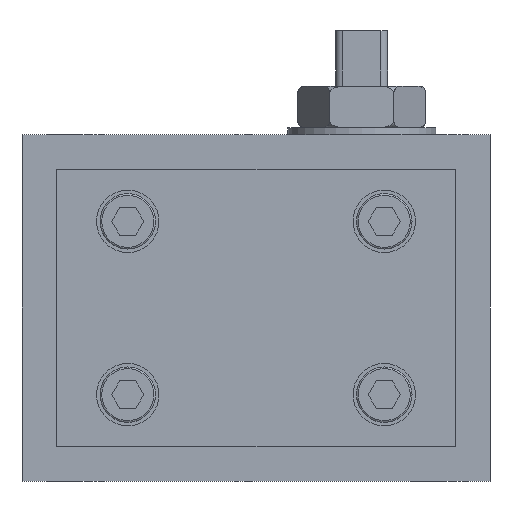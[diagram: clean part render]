
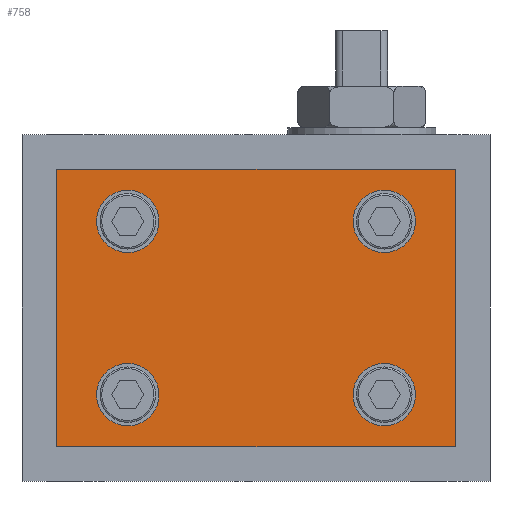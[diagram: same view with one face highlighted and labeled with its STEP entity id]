
A CAD part, left-side view. The second image highlights one B-rep face of the part: STEP entity #758.
In plain terms, the highlighted planar face has unit normal (-1, 0, 0).
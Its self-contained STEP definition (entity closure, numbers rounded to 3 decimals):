
#238=PLANE('',#4825);
#492=FACE_BOUND('',#1357,.T.);
#493=FACE_BOUND('',#1358,.T.);
#494=FACE_BOUND('',#1359,.T.);
#495=FACE_BOUND('',#1360,.T.);
#496=FACE_BOUND('',#1361,.T.);
#758=ADVANCED_FACE('',(#492,#493,#494,#495,#496),#238,.F.);
#1357=EDGE_LOOP('',(#2386));
#1358=EDGE_LOOP('',(#2387));
#1359=EDGE_LOOP('',(#2388));
#1360=EDGE_LOOP('',(#2389));
#1361=EDGE_LOOP('',(#2390,#2391,#2392,#2393));
#1748=CIRCLE('',#4821,9.);
#1749=CIRCLE('',#4822,9.);
#1750=CIRCLE('',#4823,9.);
#1751=CIRCLE('',#4824,9.);
#2386=ORIENTED_EDGE('',*,*,#3677,.T.);
#2387=ORIENTED_EDGE('',*,*,#3678,.T.);
#2388=ORIENTED_EDGE('',*,*,#3679,.T.);
#2389=ORIENTED_EDGE('',*,*,#3680,.T.);
#2390=ORIENTED_EDGE('',*,*,#3667,.F.);
#2391=ORIENTED_EDGE('',*,*,#3676,.F.);
#2392=ORIENTED_EDGE('',*,*,#3673,.F.);
#2393=ORIENTED_EDGE('',*,*,#3670,.F.);
#3177=VERTEX_POINT('',#27154);
#3178=VERTEX_POINT('',#27156);
#3180=VERTEX_POINT('',#27162);
#3182=VERTEX_POINT('',#27168);
#3183=VERTEX_POINT('',#27175);
#3184=VERTEX_POINT('',#27177);
#3185=VERTEX_POINT('',#27179);
#3186=VERTEX_POINT('',#27181);
#3667=EDGE_CURVE('',#3177,#3178,#4096,.T.);
#3670=EDGE_CURVE('',#3178,#3180,#4099,.T.);
#3673=EDGE_CURVE('',#3180,#3182,#4102,.T.);
#3676=EDGE_CURVE('',#3182,#3177,#4105,.T.);
#3677=EDGE_CURVE('',#3183,#3183,#1748,.T.);
#3678=EDGE_CURVE('',#3184,#3184,#1749,.T.);
#3679=EDGE_CURVE('',#3185,#3185,#1750,.T.);
#3680=EDGE_CURVE('',#3186,#3186,#1751,.T.);
#4096=LINE('',#27155,#4415);
#4099=LINE('',#27161,#4418);
#4102=LINE('',#27167,#4421);
#4105=LINE('',#27172,#4424);
#4415=VECTOR('',#5625,1.);
#4418=VECTOR('',#5630,1.);
#4421=VECTOR('',#5635,1.);
#4424=VECTOR('',#5640,1.);
#4821=AXIS2_PLACEMENT_3D('',#27174,#5643,#5644);
#4822=AXIS2_PLACEMENT_3D('',#27176,#5645,#5646);
#4823=AXIS2_PLACEMENT_3D('',#27178,#5647,#5648);
#4824=AXIS2_PLACEMENT_3D('',#27180,#5649,#5650);
#4825=AXIS2_PLACEMENT_3D('',#27182,#5651,#5652);
#5625=DIRECTION('',(0.,0.,-1.));
#5630=DIRECTION('',(0.,1.,0.));
#5635=DIRECTION('',(0.,0.,1.));
#5640=DIRECTION('',(0.,-1.,0.));
#5643=DIRECTION('',(1.,0.,0.));
#5644=DIRECTION('',(0.,-1.,0.));
#5645=DIRECTION('',(1.,0.,0.));
#5646=DIRECTION('',(0.,-1.,0.));
#5647=DIRECTION('',(1.,0.,0.));
#5648=DIRECTION('',(0.,-1.,0.));
#5649=DIRECTION('',(1.,0.,0.));
#5650=DIRECTION('',(0.,-1.,0.));
#5651=DIRECTION('',(1.,0.,0.));
#5652=DIRECTION('',(0.,0.,-1.));
#27154=CARTESIAN_POINT('',(-125.,-57.5,90.));
#27155=CARTESIAN_POINT('',(-125.,-57.5,90.));
#27156=CARTESIAN_POINT('',(-125.,-57.5,10.));
#27161=CARTESIAN_POINT('',(-125.,-57.5,10.));
#27162=CARTESIAN_POINT('',(-125.,57.5,10.));
#27167=CARTESIAN_POINT('',(-125.,57.5,10.));
#27168=CARTESIAN_POINT('',(-125.,57.5,90.));
#27172=CARTESIAN_POINT('',(-125.,57.5,90.));
#27174=CARTESIAN_POINT('',(-125.,37.,25.));
#27175=CARTESIAN_POINT('',(-125.,28.,25.));
#27176=CARTESIAN_POINT('',(-125.,-37.,25.));
#27177=CARTESIAN_POINT('',(-125.,-46.,25.));
#27178=CARTESIAN_POINT('',(-125.,-37.,75.));
#27179=CARTESIAN_POINT('',(-125.,-46.,75.));
#27180=CARTESIAN_POINT('',(-125.,37.,75.));
#27181=CARTESIAN_POINT('',(-125.,28.,75.));
#27182=CARTESIAN_POINT('',(-125.,0.,0.));
